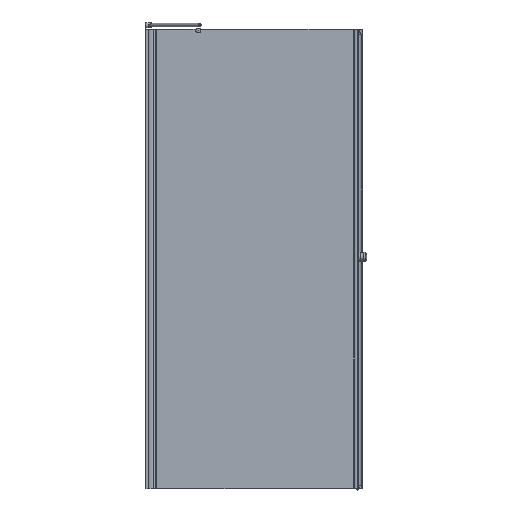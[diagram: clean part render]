
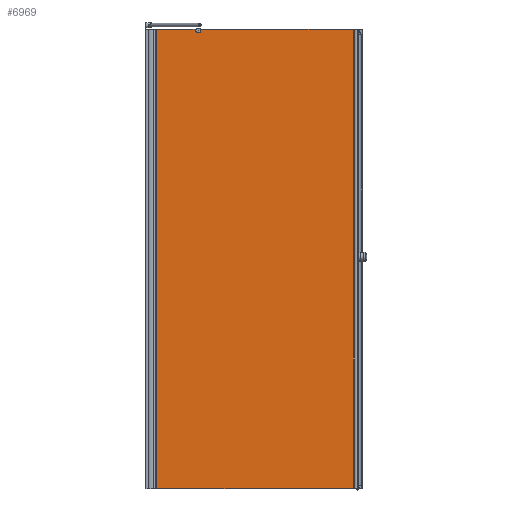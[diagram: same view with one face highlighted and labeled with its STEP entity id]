
A CAD part, front view. The second image highlights one B-rep face of the part: STEP entity #6969.
In plain terms, the highlighted planar face has unit normal (0, -1, 0).
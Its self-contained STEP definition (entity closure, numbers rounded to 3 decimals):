
#272=LINE($,#10612,#929);
#281=LINE($,#10651,#938);
#331=LINE($,#10807,#988);
#336=LINE($,#10816,#993);
#498=LINE($,#11367,#1155);
#499=LINE($,#11369,#1156);
#501=LINE($,#11377,#1158);
#502=LINE($,#11380,#1159);
#929=VECTOR($,#8345,1900.);
#938=VECTOR($,#8390,14.302);
#988=VECTOR($,#8550,1.);
#993=VECTOR($,#8557,820.698);
#1155=VECTOR($,#9019,1898.);
#1156=VECTOR($,#9022,3.);
#1158=VECTOR($,#9032,636.666);
#1159=VECTOR($,#9035,180.474);
#1781=FACE_OUTER_BOUND($,#2145,.T.);
#2145=EDGE_LOOP($,(#5364,#5365,#5366,#5367,#5368,#5369,#5370,#5371,#5372));
#2458=CIRCLE($,#7534,10.);
#2789=VERTEX_POINT($,#10608);
#2791=VERTEX_POINT($,#10611);
#2803=VERTEX_POINT($,#10650);
#2854=VERTEX_POINT($,#10806);
#2857=VERTEX_POINT($,#10814);
#3013=VERTEX_POINT($,#11296);
#3029=VERTEX_POINT($,#11365);
#3031=VERTEX_POINT($,#11376);
#3032=VERTEX_POINT($,#11378);
#3523=EDGE_CURVE($,#2789,#2791,#272,.T.);
#3543=EDGE_CURVE($,#2803,#2791,#281,.T.);
#3622=EDGE_CURVE($,#2854,#2803,#331,.T.);
#3627=EDGE_CURVE($,#2789,#2857,#336,.T.);
#3875=EDGE_CURVE($,#3029,#3013,#498,.T.);
#3876=EDGE_CURVE($,#3013,#2857,#499,.T.);
#3879=EDGE_CURVE($,#3029,#3031,#501,.T.);
#3880=EDGE_CURVE($,#3031,#3032,#2458,.T.);
#3881=EDGE_CURVE($,#3032,#2854,#502,.T.);
#5364=ORIENTED_EDGE($,*,*,#3523,.F.);
#5365=ORIENTED_EDGE($,*,*,#3627,.T.);
#5366=ORIENTED_EDGE($,*,*,#3876,.F.);
#5367=ORIENTED_EDGE($,*,*,#3875,.F.);
#5368=ORIENTED_EDGE($,*,*,#3879,.T.);
#5369=ORIENTED_EDGE($,*,*,#3880,.T.);
#5370=ORIENTED_EDGE($,*,*,#3881,.T.);
#5371=ORIENTED_EDGE($,*,*,#3622,.T.);
#5372=ORIENTED_EDGE($,*,*,#3543,.T.);
#6329=PLANE($,#7533);
#6969=ADVANCED_FACE($,(#1781),#6329,.T.);
#7533=AXIS2_PLACEMENT_3D($,#11375,#9030,#9031);
#7534=AXIS2_PLACEMENT_3D($,#11379,#9033,#9034);
#8345=DIRECTION($,(0.,0.,1.));
#8390=DIRECTION($,(1.,0.,0.));
#8550=DIRECTION($,(0.,0.,-1.));
#8557=DIRECTION($,(1.,0.,0.));
#9019=DIRECTION($,(0.,0.,-1.));
#9022=DIRECTION($,(0.,0.,-1.));
#9030=DIRECTION('center_axis',(0.,-1.,0.));
#9031=DIRECTION('ref_axis',(-1.,0.,0.));
#9032=DIRECTION($,(-1.,0.,0.));
#9033=DIRECTION('center_axis',(0.,1.,0.));
#9034=DIRECTION('ref_axis',(0.,0.,
-1.));
#9035=DIRECTION($,(-1.,0.,0.));
#10608=CARTESIAN_POINT('',(410.321,-34.044,-515.056));
#10611=CARTESIAN_POINT('',(410.321,-34.044,1384.944));
#10612=CARTESIAN_POINT($,(410.321,-34.044,-515.056));
#10650=CARTESIAN_POINT('',(396.019,-34.044,1384.944));
#10651=CARTESIAN_POINT($,(812.001,-34.044,1384.944));
#10806=CARTESIAN_POINT('',(396.019,-34.044,1385.944));
#10807=CARTESIAN_POINT($,(396.019,-34.044,1385.944));
#10814=CARTESIAN_POINT('',(1231.019,-34.044,-515.056));
#10816=CARTESIAN_POINT($,(396.019,-34.044,-515.056));
#11296=CARTESIAN_POINT('',(1231.019,-34.044,-512.056));
#11365=CARTESIAN_POINT('',(1231.019,-34.044,1385.944));
#11367=CARTESIAN_POINT($,(1231.019,-34.044,1385.944));
#11369=CARTESIAN_POINT($,(1231.019,-34.044,1385.944));
#11375=CARTESIAN_POINT('Origin',(1231.019,-34.044,1385.944));
#11376=CARTESIAN_POINT('',(594.353,-34.044,1385.944));
#11377=CARTESIAN_POINT($,(1231.019,-34.044,1385.944));
#11378=CARTESIAN_POINT('',(576.493,-34.044,1385.944));
#11379=CARTESIAN_POINT('Origin',(585.423,-34.044,1381.444));
#11380=CARTESIAN_POINT($,(1231.019,-34.044,1385.944));
